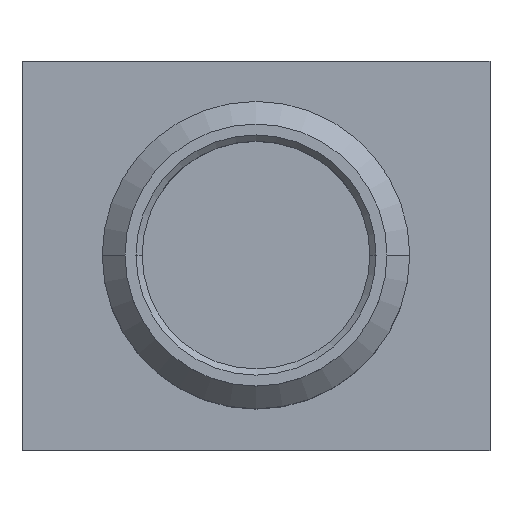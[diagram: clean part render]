
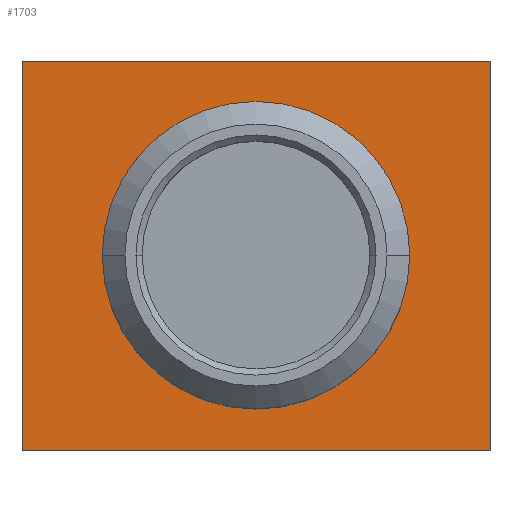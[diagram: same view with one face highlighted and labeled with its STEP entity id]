
A CAD part, top view. The second image highlights one B-rep face of the part: STEP entity #1703.
In plain terms, the highlighted planar face has unit normal (0, 0, 1).
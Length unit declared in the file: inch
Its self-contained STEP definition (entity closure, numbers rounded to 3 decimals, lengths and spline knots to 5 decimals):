
#12 = ORIENTED_EDGE ( 'NONE', *, *, #1857, .F. ) ;
#21 = EDGE_LOOP ( 'NONE', ( #1544, #329, #12, #632 ) ) ;
#35 = ORIENTED_EDGE ( 'NONE', *, *, #1237, .T. ) ;
#96 = CARTESIAN_POINT ( 'NONE',  ( 0.1875, 0.156, -0.31 ) ) ;
#143 = CARTESIAN_POINT ( 'NONE',  ( -0.105, 0., -0.31 ) ) ;
#145 = LINE ( 'NONE', #96, #1753 ) ;
#164 = LINE ( 'NONE', #194, #998 ) ;
#188 = CIRCLE ( 'NONE', #2078, 0.105 ) ;
#194 = CARTESIAN_POINT ( 'NONE',  ( 0.1875, -0.156, -0.31 ) ) ;
#195 = CARTESIAN_POINT ( 'NONE',  ( 0., 0., -0.31 ) ) ;
#255 = FACE_BOUND ( 'NONE', #636, .T. ) ;
#321 = CARTESIAN_POINT ( 'NONE',  ( 0.1875, -0.156, -0.31 ) ) ;
#329 = ORIENTED_EDGE ( 'NONE', *, *, #1451, .F. ) ;
#355 = DIRECTION ( 'NONE',  ( -1., 0., 0. ) ) ;
#390 = VERTEX_POINT ( 'NONE', #143 ) ;
#452 = VERTEX_POINT ( 'NONE', #755 ) ;
#464 = VERTEX_POINT ( 'NONE', #1886 ) ;
#478 = DIRECTION ( 'NONE',  ( -1., 0., 0. ) ) ;
#554 = CARTESIAN_POINT ( 'NONE',  ( -0.1875, -0.156, -0.31 ) ) ;
#571 = DIRECTION ( 'NONE',  ( 0., 0., -1. ) ) ;
#620 = EDGE_CURVE ( 'NONE', #787, #1387, #145, .T. ) ;
#632 = ORIENTED_EDGE ( 'NONE', *, *, #1047, .F. ) ;
#636 = EDGE_LOOP ( 'NONE', ( #35, #1020 ) ) ;
#670 = FACE_OUTER_BOUND ( 'NONE', #21, .T. ) ;
#755 = CARTESIAN_POINT ( 'NONE',  ( 0.105, 0., -0.31 ) ) ;
#769 = VECTOR ( 'NONE', #1666, 39.37008 ) ;
#787 = VERTEX_POINT ( 'NONE', #1740 ) ;
#819 = CARTESIAN_POINT ( 'NONE',  ( -0.1875, 0.156, -0.31 ) ) ;
#850 = CARTESIAN_POINT ( 'NONE',  ( 0.1875, -0.156, -0.31 ) ) ;
#853 = CIRCLE ( 'NONE', #2025, 0.105 ) ;
#892 = AXIS2_PLACEMENT_3D ( 'NONE', #321, #1448, #478 ) ;
#998 = VECTOR ( 'NONE', #1475, 39.37008 ) ;
#1020 = ORIENTED_EDGE ( 'NONE', *, *, #1881, .T. ) ;
#1028 = LINE ( 'NONE', #819, #1419 ) ;
#1047 = EDGE_CURVE ( 'NONE', #1387, #1551, #164, .T. ) ;
#1237 = EDGE_CURVE ( 'NONE', #452, #390, #853, .T. ) ;
#1315 = DIRECTION ( 'NONE',  ( 0., 0., -1. ) ) ;
#1346 = CARTESIAN_POINT ( 'NONE',  ( 0.1875, 0.156, -0.31 ) ) ;
#1387 = VERTEX_POINT ( 'NONE', #850 ) ;
#1419 = VECTOR ( 'NONE', #1951, 39.37008 ) ;
#1448 = DIRECTION ( 'NONE',  ( 0., 0., -1. ) ) ;
#1451 = EDGE_CURVE ( 'NONE', #464, #787, #2056, .T. ) ;
#1475 = DIRECTION ( 'NONE',  ( -1., 0., 0. ) ) ;
#1544 = ORIENTED_EDGE ( 'NONE', *, *, #620, .F. ) ;
#1545 = CARTESIAN_POINT ( 'NONE',  ( 0., 0., -0.31 ) ) ;
#1551 = VERTEX_POINT ( 'NONE', #554 ) ;
#1602 = PLANE ( 'NONE',  #892 ) ;
#1666 = DIRECTION ( 'NONE',  ( 1., 0., 0. ) ) ;
#1703 = ADVANCED_FACE ( 'NONE', ( #255, #670 ), #1602, .F. ) ;
#1704 = DIRECTION ( 'NONE',  ( -1., 0., 0. ) ) ;
#1740 = CARTESIAN_POINT ( 'NONE',  ( 0.1875, 0.156, -0.31 ) ) ;
#1753 = VECTOR ( 'NONE', #2011, 39.37008 ) ;
#1857 = EDGE_CURVE ( 'NONE', #1551, #464, #1028, .T. ) ;
#1881 = EDGE_CURVE ( 'NONE', #390, #452, #188, .T. ) ;
#1886 = CARTESIAN_POINT ( 'NONE',  ( -0.1875, 0.156, -0.31 ) ) ;
#1951 = DIRECTION ( 'NONE',  ( 0., 1., 0. ) ) ;
#2011 = DIRECTION ( 'NONE',  ( 0., -1., 0. ) ) ;
#2025 = AXIS2_PLACEMENT_3D ( 'NONE', #1545, #571, #1704 ) ;
#2056 = LINE ( 'NONE', #1346, #769 ) ;
#2078 = AXIS2_PLACEMENT_3D ( 'NONE', #195, #1315, #355 ) ;
